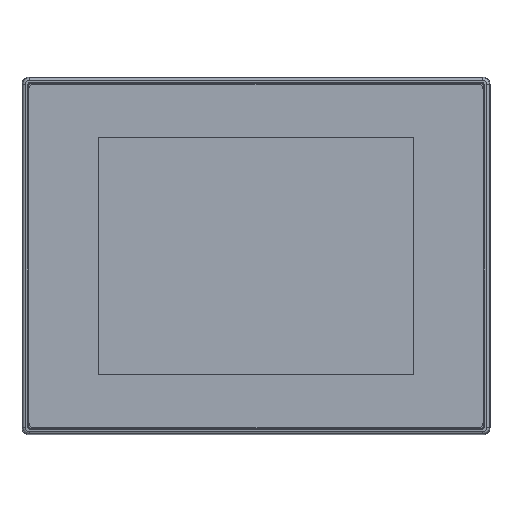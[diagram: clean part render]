
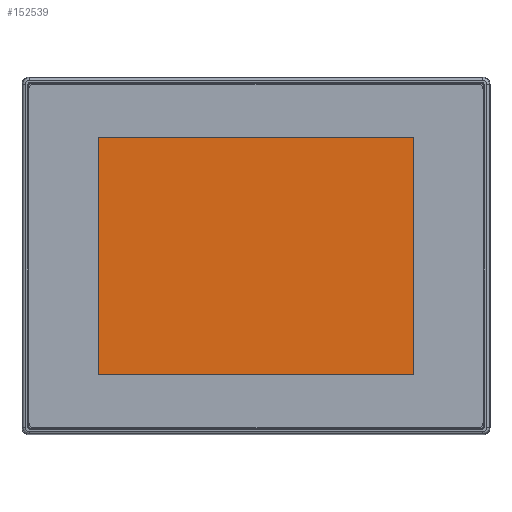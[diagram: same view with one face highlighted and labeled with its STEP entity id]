
A CAD part, top view. The second image highlights one B-rep face of the part: STEP entity #152539.
In plain terms, the highlighted planar face has unit normal (0, 0, 1).
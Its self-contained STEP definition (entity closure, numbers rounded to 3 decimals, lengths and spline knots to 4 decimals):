
#152153=DIRECTION('',(0.,-1.,0.));
#152154=VECTOR('',#152153,3.9803);
#152155=CARTESIAN_POINT('',(-2.6417,1.9902,
-0.0197));
#152156=LINE('',#152155,#152154);
#152157=DIRECTION('',(-1.,0.,0.));
#152158=VECTOR('',#152157,5.2835);
#152159=CARTESIAN_POINT('',(2.6417,1.9902,
-0.0197));
#152160=LINE('',#152159,#152158);
#152161=DIRECTION('',(0.,1.,0.));
#152162=VECTOR('',#152161,3.9803);
#152163=CARTESIAN_POINT('',(2.6417,-1.9902,
-0.0197));
#152164=LINE('',#152163,#152162);
#152165=DIRECTION('',(1.,0.,0.));
#152166=VECTOR('',#152165,5.2835);
#152167=CARTESIAN_POINT('',(-2.6417,-1.9902,
-0.0197));
#152168=LINE('',#152167,#152166);
#152216=CARTESIAN_POINT('',(-2.6417,1.9902,
-0.0197));
#152217=CARTESIAN_POINT('',(-2.6417,-1.9902,
-0.0197));
#152218=VERTEX_POINT('',#152216);
#152219=VERTEX_POINT('',#152217);
#152220=CARTESIAN_POINT('',(2.6417,-1.9902,
-0.0197));
#152221=VERTEX_POINT('',#152220);
#152222=CARTESIAN_POINT('',(2.6417,1.9902,
-0.0197));
#152223=VERTEX_POINT('',#152222);
#152528=CARTESIAN_POINT('',(0.,0.,-0.0197));
#152529=DIRECTION('',(0.,0.,1.));
#152530=DIRECTION('',(1.,0.,0.));
#152531=AXIS2_PLACEMENT_3D('',#152528,#152529,#152530);
#152532=PLANE('',#152531);
#152533=ORIENTED_EDGE('',*,*,#152480,.F.);
#152534=ORIENTED_EDGE('',*,*,#152495,.F.);
#152535=ORIENTED_EDGE('',*,*,#152509,.F.);
#152536=ORIENTED_EDGE('',*,*,#152522,.F.);
#152537=EDGE_LOOP('',(#152533,#152534,#152535,#152536));
#152538=FACE_OUTER_BOUND('',#152537,.F.);
#152539=ADVANCED_FACE('',(#152538),#152532,.T.);
#152480=EDGE_CURVE('',#152218,#152219,#152156,.T.);
#152495=EDGE_CURVE('',#152223,#152218,#152160,.T.);
#152509=EDGE_CURVE('',#152221,#152223,#152164,.T.);
#152522=EDGE_CURVE('',#152219,#152221,#152168,.T.);
